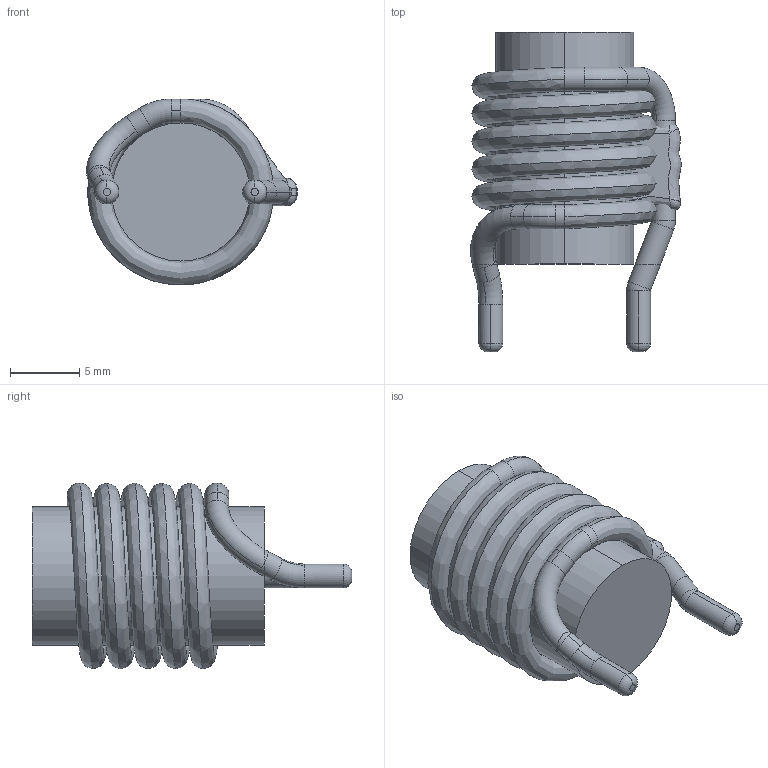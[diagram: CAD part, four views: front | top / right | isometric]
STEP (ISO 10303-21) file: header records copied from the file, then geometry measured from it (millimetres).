
FILE_DESCRIPTION (( 'STEP AP203' ), '1' );
FILE_NAME ('PV-102-25.STEP', '2020-10-01T14:03:21', ( 'Windows User' ), ( '' ), 'SwSTEP 2.0', 'SolidWorks 2015', '' );
FILE_SCHEMA (( 'CONFIG_CONTROL_DESIGN' ));
Length unit declared in the file: inch
Products named in the file (3): PV-102-25; PV-102-25 - COIL; PV-102-25 - CORE
Assembly tree (2 placements, depth 2):
  PV-102-25
    PV-102-25 - CORE
    PV-102-25 - COIL
Bounding box: 15.24 x 23.13 x 13.46 mm (x, y, z)
Volume: 1903.7 mm3; surface area: 2034.8 mm2
Topology: 7 solids, 7 shells, 70 faces, 154 edges, 94 vertices
Faces by surface type: cylinder 23, torus 19, plane 15, bspline 13
Entity records: 6717 total; most frequent: CARTESIAN_POINT 4954, DIRECTION 320, ORIENTED_EDGE 300, EDGE_CURVE 150, AXIS2_PLACEMENT_3D 147, VERTEX_POINT 94, CIRCLE 85, FACE_OUTER_BOUND 70
